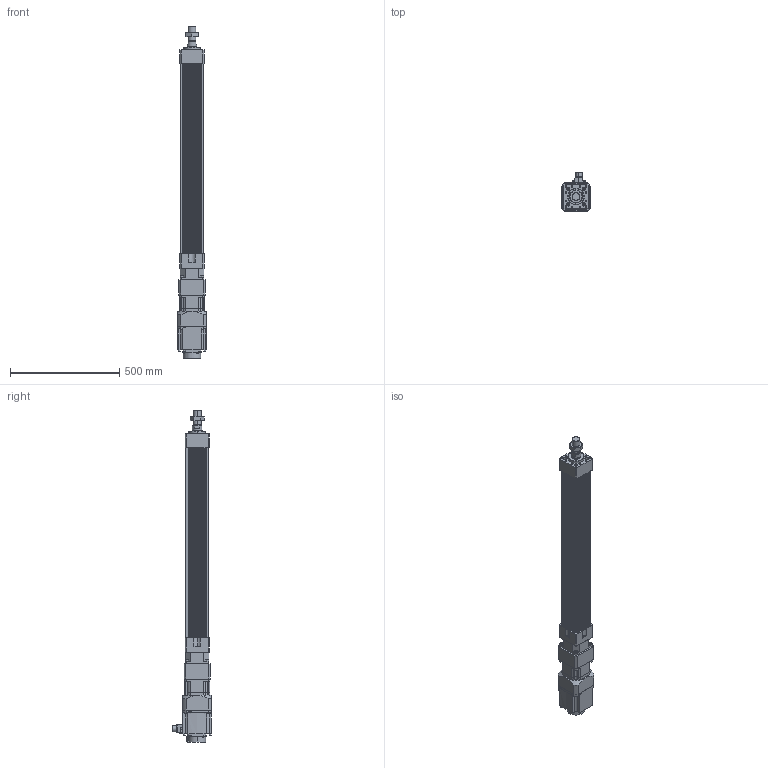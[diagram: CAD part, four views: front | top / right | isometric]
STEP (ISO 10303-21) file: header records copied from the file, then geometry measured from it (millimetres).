
FILE_DESCRIPTION (( 'STEP AP203' ), '1' );
FILE_NAME ('HES110NS(HS)-S700-W015G00-M.STEP', '2023-01-27T11:12:07', ( 'tms' ), ( '' ), 'SwSTEP 2.0', 'SolidWorks 2013', '' );
FILE_SCHEMA (( 'CONFIG_CONTROL_DESIGN' ));
Length unit declared in the file: millimetre
Products named in the file (8): M36X1.5P; HG-SR152; AB115-003[HG-SR152]; AB1151; HES110NS(HS)-S700-W015G00-M; HES110-S700-G120; HES110 ROD M ST700; P0401400706
Assembly tree (7 placements, depth 3):
  HES110NS(HS)-S700-W015G00-M
    HES110-S700-G120
    HES110 ROD M ST700
    M36X1.5P
    AB115-003[HG-SR152]
      AB1151
      P0401400706
    HG-SR152
Bounding box: 130 x 177.49 x 1521.5 mm (x, y, z)
Volume: 9625447.5 mm3; surface area: 1383336.7 mm2
Topology: 4 solids, 15 shells, 1202 faces, 3026 edges, 1951 vertices
Faces by surface type: plane 551, cylinder 537, cone 102, bspline 8, torus 4
Entity records: 37654 total; most frequent: CARTESIAN_POINT 7134, DIRECTION 6533, ORIENTED_EDGE 5960, EDGE_CURVE 2990, AXIS2_PLACEMENT_3D 2410, VERTEX_POINT 1951, LINE 1713, VECTOR 1713
